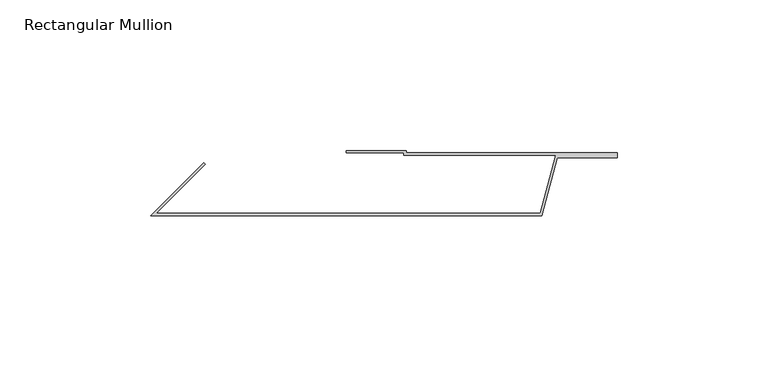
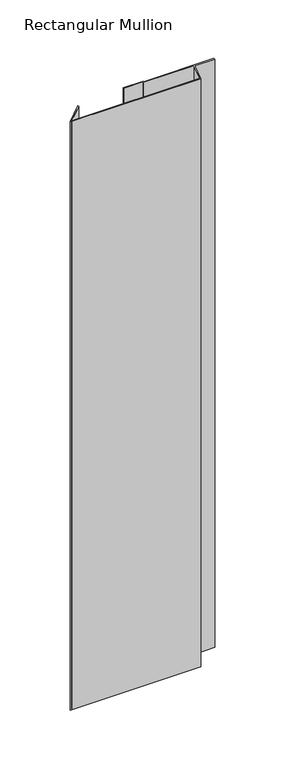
"""IFC4 building model written with IfcOpenShell, lengths in millimetres: member geometry, Rectangular Mullion : TE-V-01_02_Joint flashing."""

from ifc_helpers import new_model, si_unit, frame, origin, place, context, project, spatial, polyline, outline, extrude, source, transform, mapped, element, save


def rectangular_mullion_1d9e89ed(model_context):
    return source(origin(), model_context, "Body", "SweptSolid", [
        extrude(outline(polyline([(0.0, 0.0), (0.0, -0.8), (70.1186468, -0.8), (70.1186468, -2.4), (50.1763809, -2.4), (45.0, -21.7185165), (-85.0, -21.7185165), (-67.3223305, -4.040847), (-66.756645, -4.6065324), (-83.0686292, -20.9185165), (44.3861384, -20.9185165), (49.5625193, -1.6), (-0.8, -1.6), (-0.8, -0.8), (-20.0, -0.8), (-20.0, 0.0), (0.0, 0.0)])), frame((0.0, 0.0, -619.9999997), z_axis=(0.0, 0.0, 1.0), x_axis=(1.0, 0.0, 0.0)), (0.0, 0.0, 1.0), 619.9999997),
    ])


if __name__ == "__main__":
    model = new_model("IFC4")
    model_context = context("Model", 3, world=origin())
    ifc_project = project(units=[si_unit("LENGTHUNIT", "METRE", prefix="MILLI")], contexts=[model_context])
    site = spatial("IfcSite", under=ifc_project)
    building = spatial("IfcBuilding", under=site)
    placement = place(None, origin())
    rectangular_mullion_shape = rectangular_mullion_1d9e89ed(model_context)
    element("IfcMember", 1, ObjectType="Rectangular Mullion : TE-V-01_02_Joint flashing", at=placement, inside=building, context=model_context, shape_type="MappedRepresentation", body=[
        mapped(rectangular_mullion_shape, transform((0.0, 0.0, 0.0), x_axis=(1.0, 0.0, 0.0), y_axis=(0.0, 1.0, 0.0), z_axis=(0.0, 0.0, 1.0))),
    ])
    save(model, "model.ifc")
